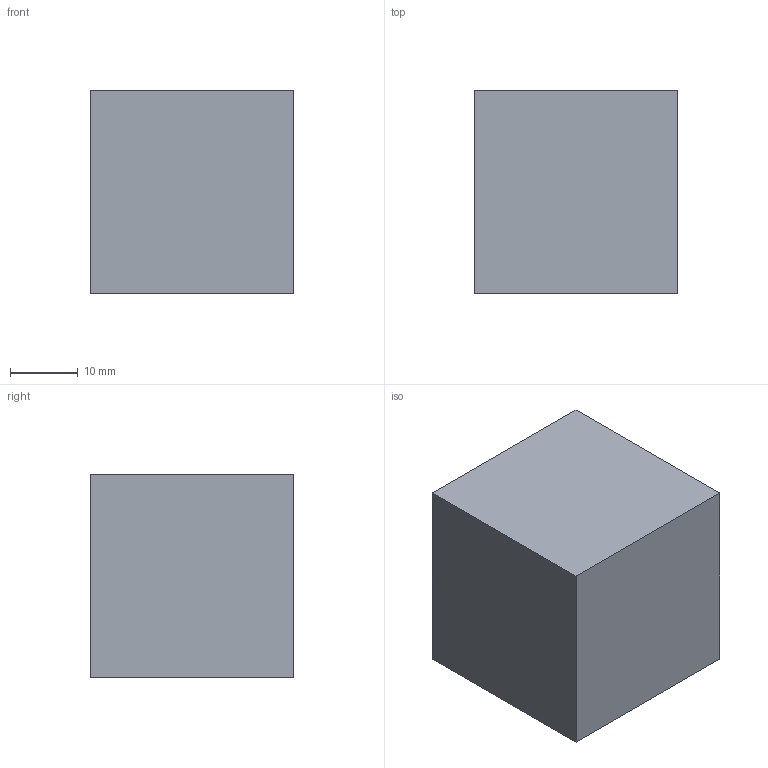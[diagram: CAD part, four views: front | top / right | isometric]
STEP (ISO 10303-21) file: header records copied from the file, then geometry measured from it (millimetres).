
FILE_DESCRIPTION (( 'STEP AP214' ), '1' );
FILE_NAME ('2_13_1067_PU06-2.STEP', '2026-02-03T06:38:42', ( '' ), ( '' ), 'SwSTEP 2.0', 'SolidWorks 2024', '' );
FILE_SCHEMA (( 'AUTOMOTIVE_DESIGN' ));
Length unit declared in the file: millimetre
Products named in the file (1): 2_13_1067_PU06-2
Bounding box: 30 x 30 x 30 mm (x, y, z)
Volume: 23680.9 mm3; surface area: 6323.4 mm2
Topology: 1 solids, 1 shells, 27 faces, 58 edges, 33 vertices
Faces by surface type: cone 10, cylinder 8, plane 7, torus 2
Entity records: 735 total; most frequent: DIRECTION 138, CARTESIAN_POINT 117, ORIENTED_EDGE 112, EDGE_CURVE 56, AXIS2_PLACEMENT_3D 54, VERTEX_POINT 33, VECTOR 30, LINE 30
